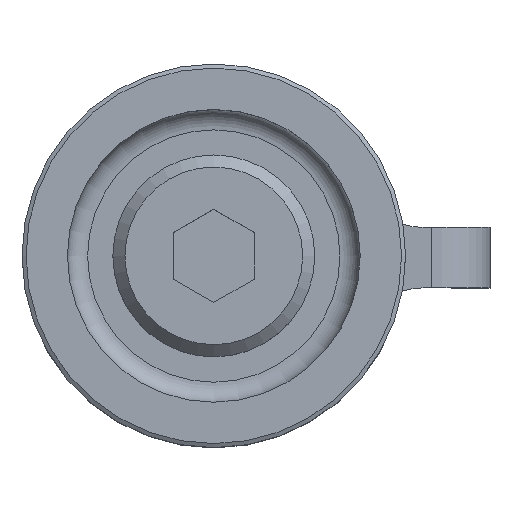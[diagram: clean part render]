
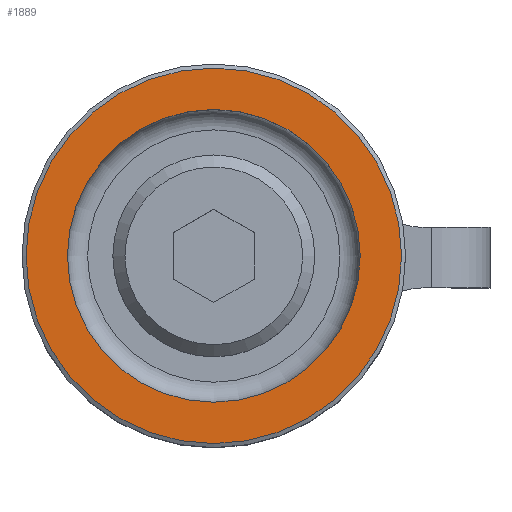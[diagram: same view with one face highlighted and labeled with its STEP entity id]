
A CAD part, top view. The second image highlights one B-rep face of the part: STEP entity #1889.
In plain terms, the highlighted planar face has unit normal (0, 0, 1) as drawn and (1, 0, 0) by its records, which use the part's own axes.
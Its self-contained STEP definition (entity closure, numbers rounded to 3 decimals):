
#1889=ADVANCED_FACE('A_MATE1',(#2089,#2090),#1962,.F.);
#1962=PLANE('',#3645);
#2089=FACE_BOUND('',#2308,.T.);
#2090=FACE_BOUND('',#2309,.T.);
#2308=EDGE_LOOP('',(#2776));
#2309=EDGE_LOOP('',(#2777));
#2776=ORIENTED_EDGE('',*,*,#3238,.T.);
#2777=ORIENTED_EDGE('',*,*,#3239,.F.);
#2996=VERTEX_POINT('',#5177);
#2997=VERTEX_POINT('',#5179);
#3238=EDGE_CURVE('',#2996,#2996,#3384,.T.);
#3239=EDGE_CURVE('',#2997,#2997,#3385,.T.);
#3384=CIRCLE('',#3643,9.3);
#3385=CIRCLE('',#3644,7.25);
#3643=AXIS2_PLACEMENT_3D('',#5176,#4249,#4250);
#3644=AXIS2_PLACEMENT_3D('',#5178,#4251,#4252);
#3645=AXIS2_PLACEMENT_3D('',#5180,#4253,#4254);
#4249=DIRECTION('',(1.,0.,0.));
#4250=DIRECTION('',(0.,0.,1.));
#4251=DIRECTION('',(1.,0.,0.));
#4252=DIRECTION('',(0.,0.,1.));
#4253=DIRECTION('',(-1.,0.,0.));
#4254=DIRECTION('',(0.,0.,1.));
#5176=CARTESIAN_POINT('',(10.,0.,0.));
#5177=CARTESIAN_POINT('',(10.,0.,9.3));
#5178=CARTESIAN_POINT('',(10.,0.,0.));
#5179=CARTESIAN_POINT('',(10.,0.,7.25));
#5180=CARTESIAN_POINT('',(10.,9.5,0.));
